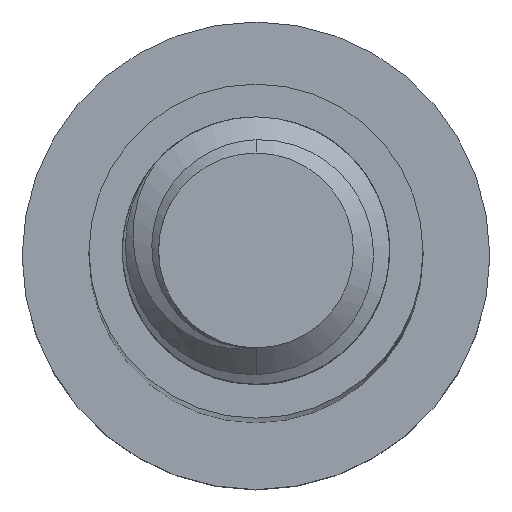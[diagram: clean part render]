
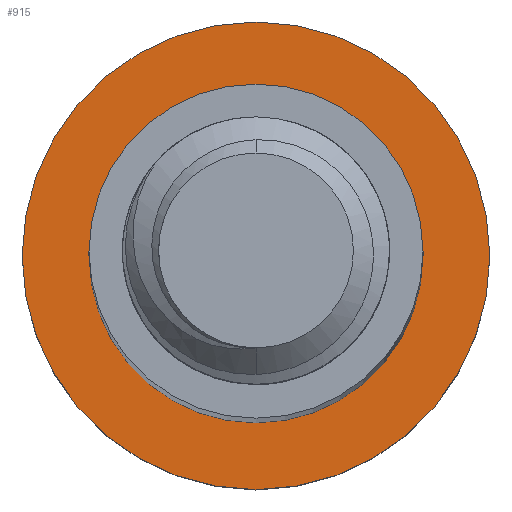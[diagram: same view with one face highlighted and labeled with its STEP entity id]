
A CAD part, top view. The second image highlights one B-rep face of the part: STEP entity #915.
In plain terms, the highlighted planar face has unit normal (0, 0, 1).
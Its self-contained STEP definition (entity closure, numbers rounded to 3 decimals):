
#120 = AXIS2_PLACEMENT_3D ( 'NONE', #412, #2718, #758 ) ;
#199 = CIRCLE ( 'NONE', #401, 7. ) ;
#218 = EDGE_CURVE ( 'NONE', #1414, #3728, #736, .T. ) ;
#296 = EDGE_LOOP ( 'NONE', ( #3703, #3225 ) ) ;
#320 = VERTEX_POINT ( 'NONE', #2768 ) ;
#401 = AXIS2_PLACEMENT_3D ( 'NONE', #3489, #2931, #2232 ) ;
#412 = CARTESIAN_POINT ( 'NONE',  ( 0., 0., -80. ) ) ;
#604 = DIRECTION ( 'NONE',  ( 0., 0., -1. ) ) ;
#736 = CIRCLE ( 'NONE', #2111, 7. ) ;
#758 = DIRECTION ( 'NONE',  ( -1., 0., 0. ) ) ;
#915 = ADVANCED_FACE ( 'NONE', ( #2740, #2717 ), #2083, .F. ) ;
#927 = CARTESIAN_POINT ( 'NONE',  ( -7., 0., -80. ) ) ;
#1055 = ORIENTED_EDGE ( 'NONE', *, *, #2525, .F. ) ;
#1080 = DIRECTION ( 'NONE',  ( -1., 0., 0. ) ) ;
#1253 = DIRECTION ( 'NONE',  ( -1., 0., 0. ) ) ;
#1309 = CARTESIAN_POINT ( 'NONE',  ( 0., 0., -80. ) ) ;
#1414 = VERTEX_POINT ( 'NONE', #927 ) ;
#1426 = AXIS2_PLACEMENT_3D ( 'NONE', #4005, #1469, #1080 ) ;
#1469 = DIRECTION ( 'NONE',  ( 0., 0., -1. ) ) ;
#1533 = CARTESIAN_POINT ( 'NONE',  ( 0., 0., -80. ) ) ;
#1600 = CARTESIAN_POINT ( 'NONE',  ( 7., 0., -80. ) ) ;
#1928 = EDGE_CURVE ( 'NONE', #2399, #320, #2383, .T. ) ;
#2083 = PLANE ( 'NONE',  #1426 ) ;
#2111 = AXIS2_PLACEMENT_3D ( 'NONE', #1533, #3468, #3127 ) ;
#2232 = DIRECTION ( 'NONE',  ( -1., 0., 0. ) ) ;
#2308 = ORIENTED_EDGE ( 'NONE', *, *, #218, .F. ) ;
#2383 = CIRCLE ( 'NONE', #120, 5. ) ;
#2399 = VERTEX_POINT ( 'NONE', #3602 ) ;
#2525 = EDGE_CURVE ( 'NONE', #3728, #1414, #199, .T. ) ;
#2691 = EDGE_CURVE ( 'NONE', #320, #2399, #3758, .T. ) ;
#2717 = FACE_OUTER_BOUND ( 'NONE', #2731, .T. ) ;
#2718 = DIRECTION ( 'NONE',  ( 0., 0., -1. ) ) ;
#2731 = EDGE_LOOP ( 'NONE', ( #1055, #2308 ) ) ;
#2740 = FACE_BOUND ( 'NONE', #296, .T. ) ;
#2768 = CARTESIAN_POINT ( 'NONE',  ( 5., 0., -80. ) ) ;
#2931 = DIRECTION ( 'NONE',  ( 0., 0., -1. ) ) ;
#3127 = DIRECTION ( 'NONE',  ( -1., 0., 0. ) ) ;
#3225 = ORIENTED_EDGE ( 'NONE', *, *, #2691, .T. ) ;
#3327 = AXIS2_PLACEMENT_3D ( 'NONE', #1309, #604, #1253 ) ;
#3468 = DIRECTION ( 'NONE',  ( 0., 0., -1. ) ) ;
#3489 = CARTESIAN_POINT ( 'NONE',  ( 0., 0., -80. ) ) ;
#3602 = CARTESIAN_POINT ( 'NONE',  ( -5., 0., -80. ) ) ;
#3703 = ORIENTED_EDGE ( 'NONE', *, *, #1928, .T. ) ;
#3728 = VERTEX_POINT ( 'NONE', #1600 ) ;
#3758 = CIRCLE ( 'NONE', #3327, 5. ) ;
#4005 = CARTESIAN_POINT ( 'NONE',  ( 0., 0., -80. ) ) ;
